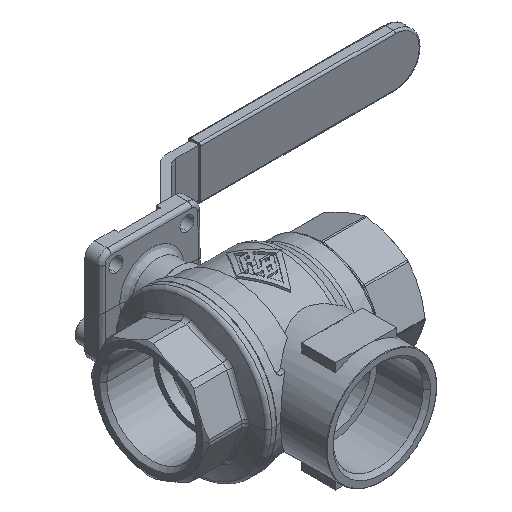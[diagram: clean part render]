
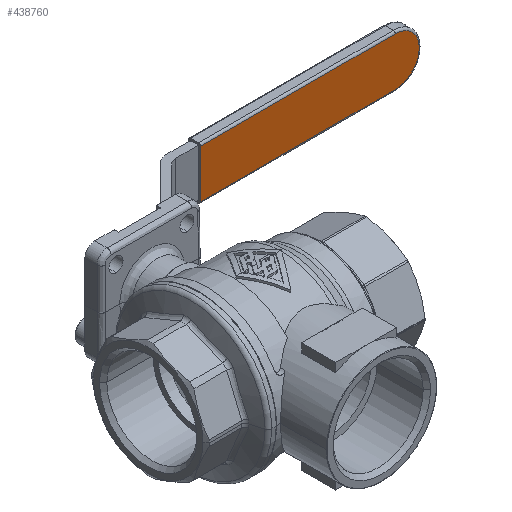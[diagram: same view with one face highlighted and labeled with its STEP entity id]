
A CAD part, isometric view. The second image highlights one B-rep face of the part: STEP entity #438760.
In plain terms, the highlighted planar face has unit normal (0, -1, 0).
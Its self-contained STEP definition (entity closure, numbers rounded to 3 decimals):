
#435120=CARTESIAN_POINT('',(-59.995,89.,-12.));
#435130=VERTEX_POINT('',#435120);
#435160=CARTESIAN_POINT('',(-59.995,89.,13.));
#435170=DIRECTION('',(0.,0.,-1.));
#435180=VECTOR('',#435170,1.);
#435190=LINE('',#435160,#435180);
#435200=CARTESIAN_POINT('',(-59.995,89.,12.));
#435210=VERTEX_POINT('',#435200);
#435220=EDGE_CURVE('',#435210,#435130,#435190,.T.);
#435670=CARTESIAN_POINT('',(-168.995,89.,
0.));
#435680=VERTEX_POINT('',#435670);
#435850=CARTESIAN_POINT('',(-156.995,89.,12.));
#435860=VERTEX_POINT('',#435850);
#435890=CARTESIAN_POINT('',(-156.995,89.,
0.));
#435900=DIRECTION('',(0.,1.,0.));
#435910=DIRECTION('',(-1.,0.,0.));
#435920=AXIS2_PLACEMENT_3D('',#435890,#435900,#435910);
#435930=CIRCLE('',#435920,12.);
#435940=EDGE_CURVE('',#435680,#435860,#435930,.T.);
#438160=CARTESIAN_POINT('',(-136.225,89.,12.));
#438170=DIRECTION('',(1.,0.,0.));
#438180=VECTOR('',#438170,1.);
#438190=LINE('',#438160,#438180);
#438200=EDGE_CURVE('',#435860,#435210,#438190,.T.);
#438560=CARTESIAN_POINT('',(-136.225,89.,
1.651));
#438570=DIRECTION('',(0.,1.,0.));
#438580=DIRECTION('',(-1.,0.,0.));
#438590=AXIS2_PLACEMENT_3D('',#438560,#438570,#438580);
#438600=PLANE('',#438590);
#438610=ORIENTED_EDGE('',*,*,#438200,.F.);
#438620=ORIENTED_EDGE('',*,*,#435220,.F.);
#438630=CARTESIAN_POINT('',(-136.225,89.,-12.));
#438640=DIRECTION('',(-1.,0.,0.));
#438650=VECTOR('',#438640,1.);
#438660=LINE('',#438630,#438650);
#438670=CARTESIAN_POINT('',(-156.995,89.,-12.));
#438680=VERTEX_POINT('',#438670);
#438690=EDGE_CURVE('',#435130,#438680,#438660,.T.);
#438700=ORIENTED_EDGE('',*,*,#438690,.F.);
#438710=EDGE_CURVE('',#438680,#435680,#435930,.T.);
#438720=ORIENTED_EDGE('',*,*,#438710,.F.);
#438730=ORIENTED_EDGE('',*,*,#435940,.F.);
#438740=EDGE_LOOP('',(#438730,#438720,#438700,#438620,#438610));
#438750=FACE_OUTER_BOUND('',#438740,.T.);
#438760=ADVANCED_FACE('',(#438750),#438600,.F.);
